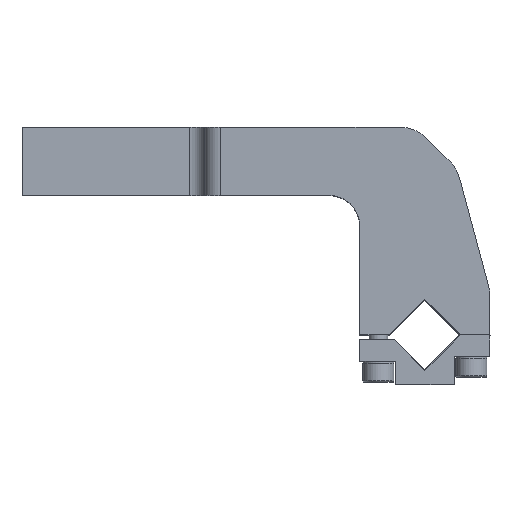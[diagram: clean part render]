
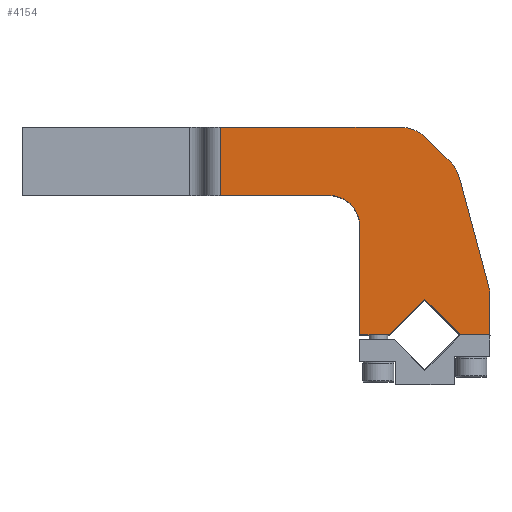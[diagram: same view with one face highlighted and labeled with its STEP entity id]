
A CAD part, top view. The second image highlights one B-rep face of the part: STEP entity #4154.
In plain terms, the highlighted planar face has unit normal (0, 0, 1).
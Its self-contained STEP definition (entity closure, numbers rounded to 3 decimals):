
#529=CARTESIAN_POINT('Vertex',(-7.971,67.,27.)) ;
#532=CARTESIAN_POINT('Axis2P3D Location',(-7.971,55.,27.)) ;
#536=CARTESIAN_POINT('Vertex',(0.515,63.485,27.)) ;
#1370=CARTESIAN_POINT('Vertex',(-11.455,0.,27.)) ;
#1373=CARTESIAN_POINT('Line Origine',(-16.228,0.,27.)) ;
#1377=CARTESIAN_POINT('Vertex',(-21.,0.,27.)) ;
#1411=CARTESIAN_POINT('Line Origine',(-21.,17.5,27.)) ;
#1415=CARTESIAN_POINT('Vertex',(-21.,35.,27.)) ;
#1430=CARTESIAN_POINT('Axis2P3D Location',(-31.,35.,27.)) ;
#1434=CARTESIAN_POINT('Vertex',(-31.,45.,27.)) ;
#1449=CARTESIAN_POINT('Line Origine',(4.313,59.687,27.)) ;
#1453=CARTESIAN_POINT('Vertex',(8.112,55.888,27.)) ;
#1468=CARTESIAN_POINT('Axis2P3D Location',(-0.374,47.403,27.)) ;
#1472=CARTESIAN_POINT('Vertex',(11.217,50.509,27.)) ;
#1487=CARTESIAN_POINT('Line Origine',(15.904,33.017,27.)) ;
#1491=CARTESIAN_POINT('Vertex',(20.591,15.526,27.)) ;
#1506=CARTESIAN_POINT('Axis2P3D Location',(9.,12.42,27.)) ;
#1510=CARTESIAN_POINT('Vertex',(21.,12.42,27.)) ;
#1525=CARTESIAN_POINT('Line Origine',(21.,6.21,27.)) ;
#1529=CARTESIAN_POINT('Vertex',(21.,0.,27.)) ;
#1544=CARTESIAN_POINT('Line Origine',(16.228,0.,27.)) ;
#1548=CARTESIAN_POINT('Vertex',(11.455,0.,27.)) ;
#1591=CARTESIAN_POINT('Vertex',(0.,11.455,27.)) ;
#1594=CARTESIAN_POINT('Line Origine',(-5.728,5.728,27.)) ;
#1611=CARTESIAN_POINT('Line Origine',(5.728,5.728,27.)) ;
#3442=CARTESIAN_POINT('Axis2P3D Location',(0.,0.,27.)) ;
#4118=CARTESIAN_POINT('Line Origine',(-48.5,45.,27.)) ;
#4122=CARTESIAN_POINT('Vertex',(-66.,45.,27.)) ;
#4125=CARTESIAN_POINT('Line Origine',(-36.985,67.,27.)) ;
#4129=CARTESIAN_POINT('Vertex',(-66.,67.,27.)) ;
#4132=CARTESIAN_POINT('Line Origine',(-66.,56.,27.)) ;
#533=DIRECTION('Axis2P3D Direction',(0.,-0.,1.)) ;
#1374=DIRECTION('Vector Direction',(-1.,0.,0.)) ;
#1412=DIRECTION('Vector Direction',(0.,1.,0.)) ;
#1431=DIRECTION('Axis2P3D Direction',(-0.,0.,1.)) ;
#1450=DIRECTION('Vector Direction',(0.707,-0.707,0.)) ;
#1469=DIRECTION('Axis2P3D Direction',(0.,-0.,1.)) ;
#1488=DIRECTION('Vector Direction',(0.259,-0.966,0.)) ;
#1507=DIRECTION('Axis2P3D Direction',(-0.,0.,1.)) ;
#1526=DIRECTION('Vector Direction',(0.,-1.,0.)) ;
#1545=DIRECTION('Vector Direction',(-1.,0.,0.)) ;
#1595=DIRECTION('Vector Direction',(-0.707,-0.707,0.)) ;
#1612=DIRECTION('Vector Direction',(-0.707,0.707,0.)) ;
#3443=DIRECTION('Axis2P3D Direction',(0.,-0.,1.)) ;
#3444=DIRECTION('Axis2P3D XDirection',(0.,1.,0.)) ;
#4119=DIRECTION('Vector Direction',(-1.,0.,0.)) ;
#4126=DIRECTION('Vector Direction',(1.,0.,0.)) ;
#4133=DIRECTION('Vector Direction',(0.,1.,0.)) ;
#534=AXIS2_PLACEMENT_3D('Circle Axis2P3D',#532,#533,$) ;
#1432=AXIS2_PLACEMENT_3D('Circle Axis2P3D',#1430,#1431,$) ;
#1470=AXIS2_PLACEMENT_3D('Circle Axis2P3D',#1468,#1469,$) ;
#1508=AXIS2_PLACEMENT_3D('Circle Axis2P3D',#1506,#1507,$) ;
#3445=AXIS2_PLACEMENT_3D('Plane Axis2P3D',#3442,#3443,#3444) ;
#4138=ORIENTED_EDGE('',*,*,#4124,.T.) ;
#4139=ORIENTED_EDGE('',*,*,#1436,.T.) ;
#4140=ORIENTED_EDGE('',*,*,#1417,.T.) ;
#4141=ORIENTED_EDGE('',*,*,#1379,.T.) ;
#4142=ORIENTED_EDGE('',*,*,#1598,.T.) ;
#4143=ORIENTED_EDGE('',*,*,#1615,.T.) ;
#4144=ORIENTED_EDGE('',*,*,#1550,.T.) ;
#4145=ORIENTED_EDGE('',*,*,#1531,.T.) ;
#4146=ORIENTED_EDGE('',*,*,#1512,.T.) ;
#4147=ORIENTED_EDGE('',*,*,#1493,.T.) ;
#4148=ORIENTED_EDGE('',*,*,#1474,.T.) ;
#4149=ORIENTED_EDGE('',*,*,#1455,.T.) ;
#4150=ORIENTED_EDGE('',*,*,#538,.T.) ;
#4151=ORIENTED_EDGE('',*,*,#4131,.T.) ;
#4152=ORIENTED_EDGE('',*,*,#4136,.F.) ;
#1375=VECTOR('Line Direction',#1374,1.) ;
#1413=VECTOR('Line Direction',#1412,1.) ;
#1451=VECTOR('Line Direction',#1450,1.) ;
#1489=VECTOR('Line Direction',#1488,1.) ;
#1527=VECTOR('Line Direction',#1526,1.) ;
#1546=VECTOR('Line Direction',#1545,1.) ;
#1596=VECTOR('Line Direction',#1595,1.) ;
#1613=VECTOR('Line Direction',#1612,1.) ;
#4120=VECTOR('Line Direction',#4119,1.) ;
#4127=VECTOR('Line Direction',#4126,1.) ;
#4134=VECTOR('Line Direction',#4133,1.) ;
#4154=ADVANCED_FACE('Brep With Voids',(#4153),#3446,.T.) ;
#535=CIRCLE('generated circle',#534,12.) ;
#1433=CIRCLE('generated circle',#1432,10.) ;
#1471=CIRCLE('generated circle',#1470,12.) ;
#1509=CIRCLE('generated circle',#1508,12.) ;
#538=EDGE_CURVE('',#537,#530,#535,.T.) ;
#1379=EDGE_CURVE('',#1378,#1371,#1376,.F.) ;
#1417=EDGE_CURVE('',#1416,#1378,#1414,.F.) ;
#1436=EDGE_CURVE('',#1435,#1416,#1433,.F.) ;
#1455=EDGE_CURVE('',#1454,#537,#1452,.F.) ;
#1474=EDGE_CURVE('',#1473,#1454,#1471,.T.) ;
#1493=EDGE_CURVE('',#1492,#1473,#1490,.F.) ;
#1512=EDGE_CURVE('',#1511,#1492,#1509,.T.) ;
#1531=EDGE_CURVE('',#1530,#1511,#1528,.F.) ;
#1550=EDGE_CURVE('',#1549,#1530,#1547,.F.) ;
#1598=EDGE_CURVE('',#1371,#1592,#1597,.F.) ;
#1615=EDGE_CURVE('',#1592,#1549,#1614,.F.) ;
#4124=EDGE_CURVE('',#4123,#1435,#4121,.F.) ;
#4131=EDGE_CURVE('',#530,#4130,#4128,.F.) ;
#4136=EDGE_CURVE('',#4123,#4130,#4135,.T.) ;
#4137=EDGE_LOOP('',(#4138,#4139,#4140,#4141,#4142,#4143,#4144,#4145,#4146,#4147,#4148,#4149,#4150,#4151,#4152)) ;
#4153=FACE_OUTER_BOUND('',#4137,.T.) ;
#1376=LINE('Line',#1373,#1375) ;
#1414=LINE('Line',#1411,#1413) ;
#1452=LINE('Line',#1449,#1451) ;
#1490=LINE('Line',#1487,#1489) ;
#1528=LINE('Line',#1525,#1527) ;
#1547=LINE('Line',#1544,#1546) ;
#1597=LINE('Line',#1594,#1596) ;
#1614=LINE('Line',#1611,#1613) ;
#4121=LINE('Line',#4118,#4120) ;
#4128=LINE('Line',#4125,#4127) ;
#4135=LINE('Line',#4132,#4134) ;
#3446=PLANE('Plane',#3445) ;
#530=VERTEX_POINT('',#529) ;
#537=VERTEX_POINT('',#536) ;
#1371=VERTEX_POINT('',#1370) ;
#1378=VERTEX_POINT('',#1377) ;
#1416=VERTEX_POINT('',#1415) ;
#1435=VERTEX_POINT('',#1434) ;
#1454=VERTEX_POINT('',#1453) ;
#1473=VERTEX_POINT('',#1472) ;
#1492=VERTEX_POINT('',#1491) ;
#1511=VERTEX_POINT('',#1510) ;
#1530=VERTEX_POINT('',#1529) ;
#1549=VERTEX_POINT('',#1548) ;
#1592=VERTEX_POINT('',#1591) ;
#4123=VERTEX_POINT('',#4122) ;
#4130=VERTEX_POINT('',#4129) ;
